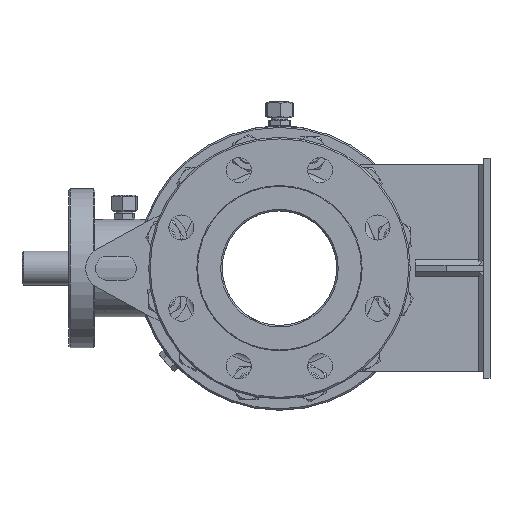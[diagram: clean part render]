
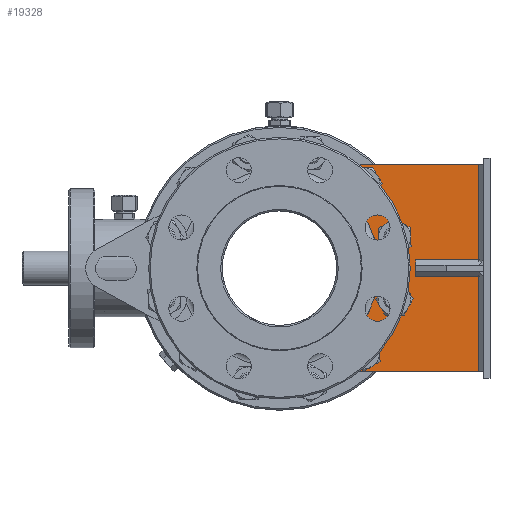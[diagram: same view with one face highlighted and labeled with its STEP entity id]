
A CAD part, left-side view. The second image highlights one B-rep face of the part: STEP entity #19328.
In plain terms, the highlighted planar face has unit normal (-1, 0, 0) as drawn and (0, 0, -1) by its records, which use the part's own axes.
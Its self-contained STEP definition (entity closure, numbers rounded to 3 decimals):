
#224 = ORIENTED_EDGE ( 'NONE', *, *, #21477, .T. ) ;
#423 = CARTESIAN_POINT ( 'NONE',  ( 40.75, 0., 0. ) ) ;
#1061 = CARTESIAN_POINT ( 'NONE',  ( 0., 150.366, 0. ) ) ;
#1098 = CARTESIAN_POINT ( 'NONE',  ( 136.75, -118., 0. ) ) ;
#1213 = CIRCLE ( 'NONE', #18206, 16. ) ;
#1326 = DIRECTION ( 'NONE',  ( 1., 0., 0. ) ) ;
#1415 = CARTESIAN_POINT ( 'NONE',  ( 40.75, 0., 0. ) ) ;
#1976 = CARTESIAN_POINT ( 'NONE',  ( -110.75, 40.5, 0. ) ) ;
#2081 = VERTEX_POINT ( 'NONE', #25181 ) ;
#2906 = FACE_BOUND ( 'NONE', #27972, .T. ) ;
#3068 = VERTEX_POINT ( 'NONE', #36496 ) ;
#3089 = ORIENTED_EDGE ( 'NONE', *, *, #25104, .F. ) ;
#3136 = VERTEX_POINT ( 'NONE', #34631 ) ;
#3205 = EDGE_CURVE ( 'NONE', #3068, #33537, #12764, .T. ) ;
#3331 = EDGE_CURVE ( 'NONE', #30698, #23777, #28599, .T. ) ;
#3826 = DIRECTION ( 'NONE',  ( -1., 0., 0. ) ) ;
#4174 = AXIS2_PLACEMENT_3D ( 'NONE', #41771, #21480, #1326 ) ;
#4373 = CARTESIAN_POINT ( 'NONE',  ( -110.75, 40.5, 0. ) ) ;
#4475 = DIRECTION ( 'NONE',  ( 1., 0., 0. ) ) ;
#4697 = VERTEX_POINT ( 'NONE', #12829 ) ;
#4813 = DIRECTION ( 'NONE',  ( -1., 0., 0. ) ) ;
#5596 = CARTESIAN_POINT ( 'NONE',  ( 136.75, -118., 0. ) ) ;
#5778 = CARTESIAN_POINT ( 'NONE',  ( 94.75, 40.5, 0. ) ) ;
#5977 = AXIS2_PLACEMENT_3D ( 'NONE', #8592, #13102, #14878 ) ;
#6155 = CARTESIAN_POINT ( 'NONE',  ( 110.75, 40.5, 0. ) ) ;
#6282 = CARTESIAN_POINT ( 'NONE',  ( -40.75, 0., 0. ) ) ;
#6705 = VECTOR ( 'NONE', #15554, 1000. ) ;
#7760 = DIRECTION ( 'NONE',  ( 1., 0., 0. ) ) ;
#8304 = AXIS2_PLACEMENT_3D ( 'NONE', #28757, #11924, #35524 ) ;
#8592 = CARTESIAN_POINT ( 'NONE',  ( 110.75, 40.5, 0. ) ) ;
#8788 = AXIS2_PLACEMENT_3D ( 'NONE', #6282, #29880, #9664 ) ;
#9143 = CARTESIAN_POINT ( 'NONE',  ( -40.75, 0., 0. ) ) ;
#9335 = EDGE_LOOP ( 'NONE', ( #32116, #11473 ) ) ;
#9525 = DIRECTION ( 'NONE',  ( -1., 0., 0. ) ) ;
#9664 = DIRECTION ( 'NONE',  ( 1., 0., 0. ) ) ;
#9709 = CIRCLE ( 'NONE', #19155, 26. ) ;
#10545 = VERTEX_POINT ( 'NONE', #41093 ) ;
#10795 = FACE_BOUND ( 'NONE', #32561, .T. ) ;
#11473 = ORIENTED_EDGE ( 'NONE', *, *, #3205, .T. ) ;
#11635 = PLANE ( 'NONE',  #8304 ) ;
#11847 = FACE_BOUND ( 'NONE', #31942, .T. ) ;
#11924 = DIRECTION ( 'NONE',  ( 0., 0., 1. ) ) ;
#12092 = AXIS2_PLACEMENT_3D ( 'NONE', #1061, #24634, #4475 ) ;
#12215 = CIRCLE ( 'NONE', #38374, 16. ) ;
#12540 = DIRECTION ( 'NONE',  ( 1., 0., 0. ) ) ;
#12588 = EDGE_LOOP ( 'NONE', ( #16162, #28344, #39255, #3089, #12622, #16409 ) ) ;
#12622 = ORIENTED_EDGE ( 'NONE', *, *, #32827, .F. ) ;
#12764 = CIRCLE ( 'NONE', #5977, 16. ) ;
#12829 = CARTESIAN_POINT ( 'NONE',  ( -56.75, 0., 0. ) ) ;
#13102 = DIRECTION ( 'NONE',  ( 0., 0., 1. ) ) ;
#13374 = ORIENTED_EDGE ( 'NONE', *, *, #13588, .T. ) ;
#13588 = EDGE_CURVE ( 'NONE', #30997, #2081, #35213, .T. ) ;
#14878 = DIRECTION ( 'NONE',  ( -1., 0., 0. ) ) ;
#15011 = CIRCLE ( 'NONE', #23339, 16. ) ;
#15554 = DIRECTION ( 'NONE',  ( 1., 0., 0. ) ) ;
#16162 = ORIENTED_EDGE ( 'NONE', *, *, #3331, .F. ) ;
#16409 = ORIENTED_EDGE ( 'NONE', *, *, #41133, .F. ) ;
#17319 = DIRECTION ( 'NONE',  ( 1., 0., 0. ) ) ;
#18086 = DIRECTION ( 'NONE',  ( 0., 0., 1. ) ) ;
#18117 = CARTESIAN_POINT ( 'NONE',  ( 24.75, 0., 0. ) ) ;
#18206 = AXIS2_PLACEMENT_3D ( 'NONE', #4373, #27959, #7760 ) ;
#18540 = DIRECTION ( 'NONE',  ( 0., 0., 1. ) ) ;
#19155 = AXIS2_PLACEMENT_3D ( 'NONE', #6155, #29734, #9525 ) ;
#19328 = ADVANCED_FACE ( 'NONE', ( #28736, #11847, #20783, #2906, #10795 ), #11635, .F. ) ;
#20063 = CARTESIAN_POINT ( 'NONE',  ( -136.75, 40.5, 0. ) ) ;
#20302 = CARTESIAN_POINT ( 'NONE',  ( 136.75, 40.5, 0. ) ) ;
#20532 = VERTEX_POINT ( 'NONE', #20302 ) ;
#20783 = FACE_OUTER_BOUND ( 'NONE', #12588, .T. ) ;
#21477 = EDGE_CURVE ( 'NONE', #2081, #30997, #1213, .T. ) ;
#21480 = DIRECTION ( 'NONE',  ( 0., 0., 1. ) ) ;
#22545 = EDGE_CURVE ( 'NONE', #33537, #3068, #12215, .T. ) ;
#22694 = EDGE_CURVE ( 'NONE', #4697, #35429, #27020, .T. ) ;
#23339 = AXIS2_PLACEMENT_3D ( 'NONE', #423, #23976, #3826 ) ;
#23344 = CARTESIAN_POINT ( 'NONE',  ( 92.292, 58.811, 0. ) ) ;
#23482 = VECTOR ( 'NONE', #41174, 1000. ) ;
#23777 = VERTEX_POINT ( 'NONE', #20063 ) ;
#23976 = DIRECTION ( 'NONE',  ( 0., 0., 1. ) ) ;
#24507 = EDGE_CURVE ( 'NONE', #38402, #30698, #34674, .T. ) ;
#24634 = DIRECTION ( 'NONE',  ( 0., 0., -1. ) ) ;
#24982 = DIRECTION ( 'NONE',  ( 0., 0., 1. ) ) ;
#25104 = EDGE_CURVE ( 'NONE', #41676, #20532, #32525, .T. ) ;
#25181 = CARTESIAN_POINT ( 'NONE',  ( -94.75, 40.5, 0. ) ) ;
#26217 = AXIS2_PLACEMENT_3D ( 'NONE', #9143, #32755, #12540 ) ;
#26270 = ORIENTED_EDGE ( 'NONE', *, *, #22694, .T. ) ;
#27020 = CIRCLE ( 'NONE', #26217, 16. ) ;
#27591 = CARTESIAN_POINT ( 'NONE',  ( 136.75, 40.5, 0. ) ) ;
#27640 = CARTESIAN_POINT ( 'NONE',  ( -92.292, 58.811, 0. ) ) ;
#27959 = DIRECTION ( 'NONE',  ( 0., 0., 1. ) ) ;
#27972 = EDGE_LOOP ( 'NONE', ( #13374, #224 ) ) ;
#28344 = ORIENTED_EDGE ( 'NONE', *, *, #24507, .F. ) ;
#28599 = CIRCLE ( 'NONE', #33113, 26. ) ;
#28736 = FACE_BOUND ( 'NONE', #9335, .T. ) ;
#28757 = CARTESIAN_POINT ( 'NONE',  ( -110.75, 40.5, 0. ) ) ;
#29734 = DIRECTION ( 'NONE',  ( 0., 0., 1. ) ) ;
#29880 = DIRECTION ( 'NONE',  ( 0., 0., 1. ) ) ;
#29934 = ORIENTED_EDGE ( 'NONE', *, *, #34945, .T. ) ;
#30165 = VECTOR ( 'NONE', #39394, 1000. ) ;
#30698 = VERTEX_POINT ( 'NONE', #27640 ) ;
#30997 = VERTEX_POINT ( 'NONE', #36184 ) ;
#31155 = CARTESIAN_POINT ( 'NONE',  ( -24.75, 0., 0. ) ) ;
#31942 = EDGE_LOOP ( 'NONE', ( #26270, #43161 ) ) ;
#32116 = ORIENTED_EDGE ( 'NONE', *, *, #22545, .T. ) ;
#32525 = LINE ( 'NONE', #27591, #23482 ) ;
#32561 = EDGE_LOOP ( 'NONE', ( #29934, #40589 ) ) ;
#32755 = DIRECTION ( 'NONE',  ( 0., 0., 1. ) ) ;
#32827 = EDGE_CURVE ( 'NONE', #10545, #41676, #42590, .T. ) ;
#32935 = CIRCLE ( 'NONE', #35877, 16. ) ;
#33113 = AXIS2_PLACEMENT_3D ( 'NONE', #1976, #18540, #17319 ) ;
#33537 = VERTEX_POINT ( 'NONE', #5778 ) ;
#33763 = EDGE_CURVE ( 'NONE', #3136, #37553, #15011, .T. ) ;
#34631 = CARTESIAN_POINT ( 'NONE',  ( 56.75, 0., 0. ) ) ;
#34674 = CIRCLE ( 'NONE', #12092, 130. ) ;
#34945 = EDGE_CURVE ( 'NONE', #37553, #3136, #32935, .T. ) ;
#35114 = EDGE_CURVE ( 'NONE', #20532, #38402, #9709, .T. ) ;
#35213 = CIRCLE ( 'NONE', #4174, 16. ) ;
#35429 = VERTEX_POINT ( 'NONE', #31155 ) ;
#35524 = DIRECTION ( 'NONE',  ( 1., 0., 0. ) ) ;
#35877 = AXIS2_PLACEMENT_3D ( 'NONE', #1415, #24982, #4813 ) ;
#35977 = CARTESIAN_POINT ( 'NONE',  ( -136.75, 40.5, 0. ) ) ;
#36184 = CARTESIAN_POINT ( 'NONE',  ( -126.75, 40.5, 0. ) ) ;
#36496 = CARTESIAN_POINT ( 'NONE',  ( 126.75, 40.5, 0. ) ) ;
#37190 = EDGE_CURVE ( 'NONE', #35429, #4697, #39664, .T. ) ;
#37553 = VERTEX_POINT ( 'NONE', #18117 ) ;
#38371 = CARTESIAN_POINT ( 'NONE',  ( 110.75, 40.5, 0. ) ) ;
#38374 = AXIS2_PLACEMENT_3D ( 'NONE', #38371, #18086, #41772 ) ;
#38402 = VERTEX_POINT ( 'NONE', #23344 ) ;
#39255 = ORIENTED_EDGE ( 'NONE', *, *, #35114, .F. ) ;
#39394 = DIRECTION ( 'NONE',  ( 0., -1., 0. ) ) ;
#39664 = CIRCLE ( 'NONE', #8788, 16. ) ;
#40217 = LINE ( 'NONE', #35977, #30165 ) ;
#40589 = ORIENTED_EDGE ( 'NONE', *, *, #33763, .T. ) ;
#41093 = CARTESIAN_POINT ( 'NONE',  ( -136.75, -118., 0. ) ) ;
#41133 = EDGE_CURVE ( 'NONE', #23777, #10545, #40217, .T. ) ;
#41174 = DIRECTION ( 'NONE',  ( 0., 1., 0. ) ) ;
#41676 = VERTEX_POINT ( 'NONE', #1098 ) ;
#41771 = CARTESIAN_POINT ( 'NONE',  ( -110.75, 40.5, 0. ) ) ;
#41772 = DIRECTION ( 'NONE',  ( -1., 0., 0. ) ) ;
#42590 = LINE ( 'NONE', #5596, #6705 ) ;
#43161 = ORIENTED_EDGE ( 'NONE', *, *, #37190, .T. ) ;
